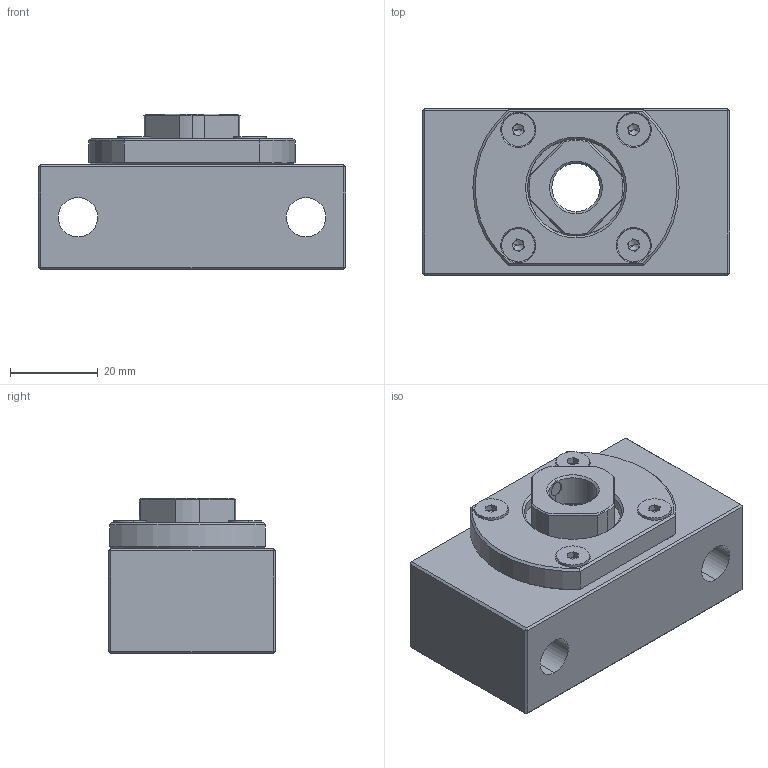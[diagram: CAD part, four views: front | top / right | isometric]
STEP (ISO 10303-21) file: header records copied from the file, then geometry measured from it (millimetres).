
FILE_DESCRIPTION (( 'STEP AP203' ), '1' );
FILE_NAME ('CSGK-12_203.STEP', '2013-03-03T01:36:48', ( 'Z77' ), ( '' ), 'SwSTEP 2.0', 'SolidWorks 2012', '' );
FILE_SCHEMA (( 'CONFIG_CONTROL_DESIGN' ));
Length unit declared in the file: millimetre
Products named in the file (1): CSGK-12_203
Bounding box: 70 x 38 x 35.5 mm (x, y, z)
Volume: 62389.1 mm3; surface area: 18887.7 mm2
Topology: 1 solids, 17 shells, 341 faces, 770 edges, 448 vertices
Faces by surface type: plane 133, cone 94, cylinder 90, torus 24
Entity records: 9548 total; most frequent: DIRECTION 1757, CARTESIAN_POINT 1717, ORIENTED_EDGE 1504, EDGE_CURVE 752, AXIS2_PLACEMENT_3D 694, VERTEX_POINT 448, EDGE_LOOP 380, VECTOR 369
